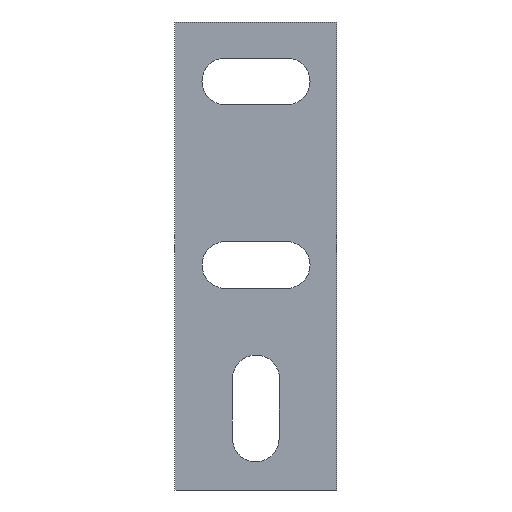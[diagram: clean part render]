
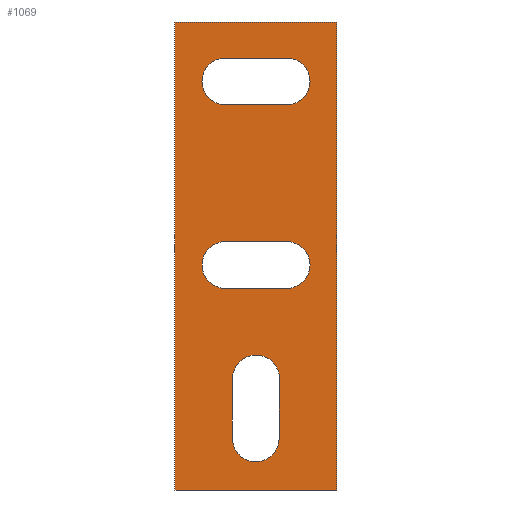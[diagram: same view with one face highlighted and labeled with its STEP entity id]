
A CAD part, left-side view. The second image highlights one B-rep face of the part: STEP entity #1069.
In plain terms, the highlighted planar face has unit normal (-1, 0, 0).
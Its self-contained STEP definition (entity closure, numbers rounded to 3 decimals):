
#17=FACE_BOUND('',#138,.T.);
#18=FACE_BOUND('',#139,.T.);
#19=FACE_BOUND('',#140,.T.);
#41=PLANE('',#1152);
#81=FACE_OUTER_BOUND('',#137,.T.);
#137=EDGE_LOOP('',(#783,#784,#785,#786));
#138=EDGE_LOOP('',(#787,#788,#789,#790));
#139=EDGE_LOOP('',(#791,#792,#793,#794));
#140=EDGE_LOOP('',(#795,#796,#797,#798));
#194=LINE('',#1552,#306);
#198=LINE('',#1562,#310);
#201=LINE('',#1570,#313);
#205=LINE('',#1582,#317);
#210=LINE('',#1600,#322);
#214=LINE('',#1610,#326);
#217=LINE('',#1618,#329);
#220=LINE('',#1624,#332);
#223=LINE('',#1630,#335);
#226=LINE('',#1634,#338);
#306=VECTOR('',#1237,10.);
#310=VECTOR('',#1249,10.);
#313=VECTOR('',#1254,10.);
#317=VECTOR('',#1266,10.);
#322=VECTOR('',#1285,10.);
#326=VECTOR('',#1297,10.);
#329=VECTOR('',#1302,10.);
#332=VECTOR('',#1307,10.);
#335=VECTOR('',#1312,10.);
#338=VECTOR('',#1317,10.);
#416=CIRCLE('',#1126,6.5);
#418=CIRCLE('',#1130,6.5);
#420=CIRCLE('',#1135,6.5);
#422=CIRCLE('',#1139,6.5);
#424=CIRCLE('',#1142,6.5);
#426=CIRCLE('',#1146,6.5);
#461=VERTEX_POINT('',#1543);
#462=VERTEX_POINT('',#1545);
#464=VERTEX_POINT('',#1551);
#466=VERTEX_POINT('',#1557);
#469=VERTEX_POINT('',#1567);
#470=VERTEX_POINT('',#1569);
#472=VERTEX_POINT('',#1575);
#474=VERTEX_POINT('',#1581);
#477=VERTEX_POINT('',#1591);
#478=VERTEX_POINT('',#1593);
#480=VERTEX_POINT('',#1599);
#482=VERTEX_POINT('',#1605);
#485=VERTEX_POINT('',#1615);
#486=VERTEX_POINT('',#1617);
#488=VERTEX_POINT('',#1623);
#490=VERTEX_POINT('',#1629);
#565=EDGE_CURVE('',#462,#461,#416,.T.);
#568=EDGE_CURVE('',#464,#462,#194,.T.);
#571=EDGE_CURVE('',#466,#464,#418,.T.);
#574=EDGE_CURVE('',#461,#466,#198,.T.);
#577=EDGE_CURVE('',#470,#469,#201,.T.);
#580=EDGE_CURVE('',#472,#470,#420,.T.);
#583=EDGE_CURVE('',#474,#472,#205,.T.);
#586=EDGE_CURVE('',#469,#474,#422,.T.);
#589=EDGE_CURVE('',#478,#477,#424,.T.);
#592=EDGE_CURVE('',#480,#478,#210,.T.);
#595=EDGE_CURVE('',#482,#480,#426,.T.);
#598=EDGE_CURVE('',#477,#482,#214,.T.);
#601=EDGE_CURVE('',#486,#485,#217,.T.);
#604=EDGE_CURVE('',#488,#486,#220,.T.);
#607=EDGE_CURVE('',#490,#488,#223,.T.);
#610=EDGE_CURVE('',#485,#490,#226,.T.);
#783=ORIENTED_EDGE('',*,*,#610,.T.);
#784=ORIENTED_EDGE('',*,*,#607,.T.);
#785=ORIENTED_EDGE('',*,*,#604,.T.);
#786=ORIENTED_EDGE('',*,*,#601,.T.);
#787=ORIENTED_EDGE('',*,*,#598,.T.);
#788=ORIENTED_EDGE('',*,*,#595,.T.);
#789=ORIENTED_EDGE('',*,*,#592,.T.);
#790=ORIENTED_EDGE('',*,*,#589,.T.);
#791=ORIENTED_EDGE('',*,*,#586,.T.);
#792=ORIENTED_EDGE('',*,*,#583,.T.);
#793=ORIENTED_EDGE('',*,*,#580,.T.);
#794=ORIENTED_EDGE('',*,*,#577,.T.);
#795=ORIENTED_EDGE('',*,*,#574,.T.);
#796=ORIENTED_EDGE('',*,*,#571,.T.);
#797=ORIENTED_EDGE('',*,*,#568,.T.);
#798=ORIENTED_EDGE('',*,*,#565,.T.);
#1069=ADVANCED_FACE('',(#81,#17,#18,#19),#41,.T.);
#1126=AXIS2_PLACEMENT_3D('',#1546,#1231,#1232);
#1130=AXIS2_PLACEMENT_3D('',#1558,#1243,#1244);
#1135=AXIS2_PLACEMENT_3D('',#1576,#1260,#1261);
#1139=AXIS2_PLACEMENT_3D('',#1586,#1272,#1273);
#1142=AXIS2_PLACEMENT_3D('',#1594,#1279,#1280);
#1146=AXIS2_PLACEMENT_3D('',#1606,#1291,#1292);
#1152=AXIS2_PLACEMENT_3D('',#1635,#1318,#1319);
#1231=DIRECTION('center_axis',(1.,0.,0.));
#1232=DIRECTION('ref_axis',(0.,1.,0.004));
#1237=DIRECTION('',(0.,0.004,-1.));
#1243=DIRECTION('center_axis',(1.,0.,0.));
#1244=DIRECTION('ref_axis',(0.,-1.,-0.004));
#1249=DIRECTION('',(0.,-0.004,1.));
#1254=DIRECTION('',(0.,-1.,0.));
#1260=DIRECTION('center_axis',(1.,0.,0.));
#1261=DIRECTION('ref_axis',(0.,0.,1.));
#1266=DIRECTION('',(0.,1.,0.));
#1272=DIRECTION('center_axis',(1.,0.,0.));
#1273=DIRECTION('ref_axis',(0.,0.,-1.));
#1279=DIRECTION('center_axis',(1.,0.,0.));
#1280=DIRECTION('ref_axis',(0.,0.,-1.));
#1285=DIRECTION('',(0.,-1.,0.));
#1291=DIRECTION('center_axis',(1.,0.,0.));
#1292=DIRECTION('ref_axis',(0.,0.,1.));
#1297=DIRECTION('',(0.,1.,0.));
#1302=DIRECTION('',(0.,1.,0.));
#1307=DIRECTION('',(0.,0.,1.));
#1312=DIRECTION('',(0.,-1.,0.));
#1317=DIRECTION('',(0.,0.,-1.));
#1318=DIRECTION('center_axis',(-1.,0.,0.));
#1319=DIRECTION('ref_axis',(0.,1.,0.));
#1543=CARTESIAN_POINT('',(-6.,29.065,14.363));
#1545=CARTESIAN_POINT('',(-6.,16.065,14.312));
#1546=CARTESIAN_POINT('Origin',(-6.,22.565,14.337));
#1551=CARTESIAN_POINT('',(-6.,16.,30.975));
#1552=CARTESIAN_POINT('',(-6.,16.065,14.312));
#1557=CARTESIAN_POINT('',(-6.,29.,31.025));
#1558=CARTESIAN_POINT('Origin',(-6.,22.5,31.));
#1562=CARTESIAN_POINT('',(-6.,29.,31.025));
#1567=CARTESIAN_POINT('',(-6.,14.,69.));
#1569=CARTESIAN_POINT('',(-6.,31.,69.));
#1570=CARTESIAN_POINT('',(-6.,14.,69.));
#1575=CARTESIAN_POINT('',(-6.,31.,56.));
#1576=CARTESIAN_POINT('Origin',(-6.,31.,62.5));
#1581=CARTESIAN_POINT('',(-6.,14.,56.));
#1582=CARTESIAN_POINT('',(-6.,31.,56.));
#1586=CARTESIAN_POINT('Origin',(-6.,14.,62.5));
#1591=CARTESIAN_POINT('',(-6.,14.,107.));
#1593=CARTESIAN_POINT('',(-6.,14.,120.));
#1594=CARTESIAN_POINT('Origin',(-6.,14.,113.5));
#1599=CARTESIAN_POINT('',(-6.,31.,120.));
#1600=CARTESIAN_POINT('',(-6.,14.,120.));
#1605=CARTESIAN_POINT('',(-6.,31.,107.));
#1606=CARTESIAN_POINT('Origin',(-6.,31.,113.5));
#1610=CARTESIAN_POINT('',(-6.,31.,107.));
#1615=CARTESIAN_POINT('',(-6.,45.,130.));
#1617=CARTESIAN_POINT('',(-6.,0.,130.));
#1618=CARTESIAN_POINT('',(-6.,0.,130.));
#1623=CARTESIAN_POINT('',(-6.,0.,0.));
#1624=CARTESIAN_POINT('',(-6.,0.,0.));
#1629=CARTESIAN_POINT('',(-6.,45.,0.));
#1630=CARTESIAN_POINT('',(-6.,45.,0.));
#1634=CARTESIAN_POINT('',(-6.,45.,130.));
#1635=CARTESIAN_POINT('Origin',(-6.,22.5,65.));
